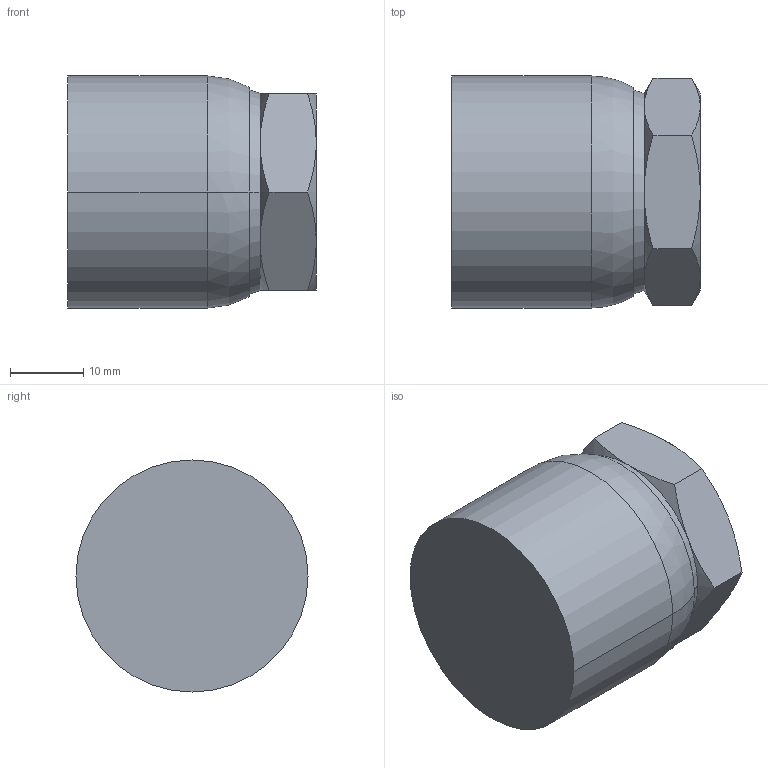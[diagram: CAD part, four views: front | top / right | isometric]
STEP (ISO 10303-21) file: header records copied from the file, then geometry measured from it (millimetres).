
FILE_DESCRIPTION(/* description */ (''),/* implementation_level */ '2;1');
FILE_NAME(/* name */ '1018',/* time_stamp */ '2016-08-26T12:02:13-04:00',/* author */ ('Nick'),/* organization */ (''),/* preprocessor_version */ 'ST-DEVELOPER v16.1',/* originating_system */ 'AutoCAD Mechanical',/* authorisation */ '');
FILE_SCHEMA (('AUTOMOTIVE_DESIGN { 1 0 10303 214 3 1 1 }'));
Length unit declared in the file: inch
Products named in the file (1): Product
Bounding box: 34.04 x 31.75 x 31.75 mm (x, y, z)
Volume: 20498.1 mm3; surface area: 5732.4 mm2
Topology: 1 solids, 1 shells, 32 faces, 68 edges, 40 vertices
Faces by surface type: cone 14, plane 10, cylinder 4, sphere 2, bspline 2
Entity records: 886 total; most frequent: CARTESIAN_POINT 217, DIRECTION 138, ORIENTED_EDGE 136, EDGE_CURVE 68, AXIS2_PLACEMENT_3D 63, VERTEX_POINT 40, EDGE_LOOP 34, FACE_OUTER_BOUND 32
